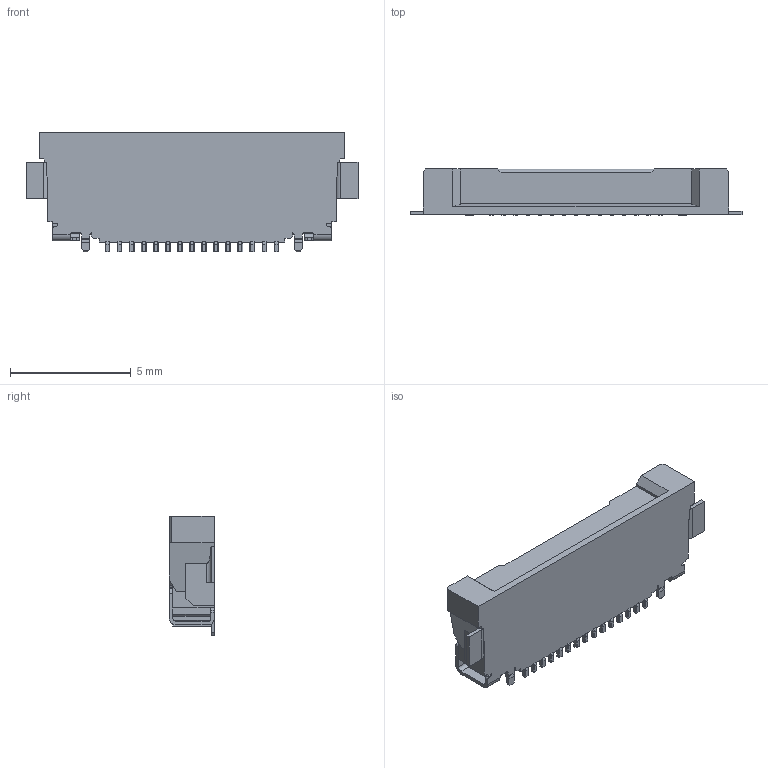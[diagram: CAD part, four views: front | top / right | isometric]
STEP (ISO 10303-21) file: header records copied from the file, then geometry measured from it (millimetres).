
FILE_DESCRIPTION (( 'STEP AP203' ), '1' );
FILE_NAME ('20535-015ExxxC Assy STEP R5 ALL.STEP', '2015-12-24T12:53:08', ( '' ), ( '' ), 'SwSTEP 2.0', 'SolidWorks 2012', '' );
FILE_SCHEMA (( 'CONFIG_CONTROL_DESIGN' ));
Length unit declared in the file: millimetre
Products named in the file (1): 20535-015ExxxC Assy STEP R5 ALL
Bounding box: 13.75 x 1.9 x 4.95 mm (x, y, z)
Volume: 92.2 mm3; surface area: 191.3 mm2
Topology: 1 solids, 1 shells, 344 faces, 994 edges, 648 vertices
Faces by surface type: plane 228, cylinder 82, cone 34
Entity records: 11443 total; most frequent: CARTESIAN_POINT 2287, ORIENTED_EDGE 1988, DIRECTION 1810, EDGE_CURVE 994, VECTOR 728, LINE 728, VERTEX_POINT 648, AXIS2_PLACEMENT_3D 541
